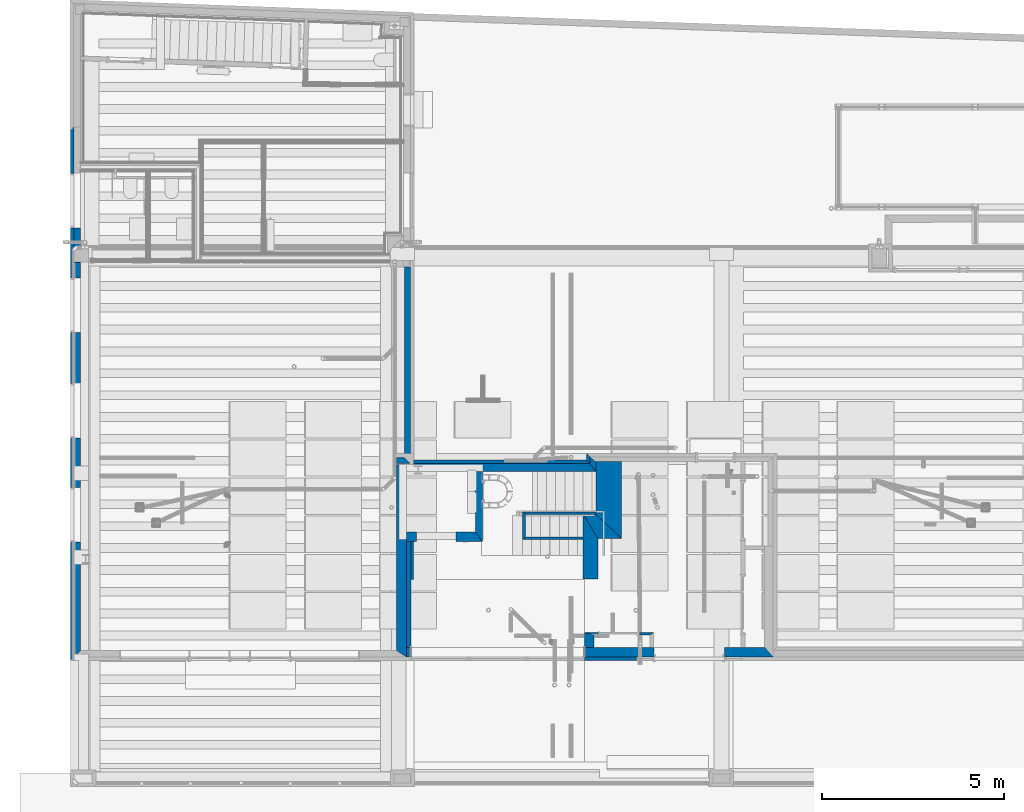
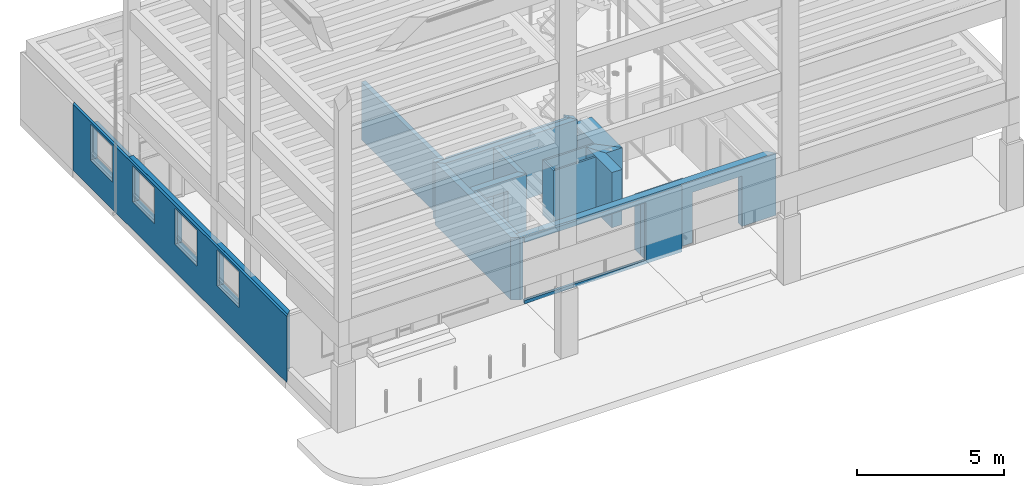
# One storey, part 6 of 108: 24 walls, 13 openings.
"""IFC2X3 building model written with IfcOpenShell, lengths in metres."""

from ifc_helpers import new_model, entity, si_unit, converted_unit, derived_unit, money_unit, direction, frame, frame_2d, origin_with_axes, place, context, subcontext, project, spatial, polyline, rectangle, outline, extrude, faceted_brep, material, layer, layer_set, layer_usage, type_object, element, save


model = new_model("IFC2X3")

# Units and contexts
model_context = context("Model", 3, precision=1e-05, world=origin_with_axes(), true_north=direction((0.0, 1.0)))
body_context = subcontext(model_context, "Body", "Model", "MODEL_VIEW", scale=1.0)
ifc_project = project(units=[si_unit("LENGTHUNIT", "METRE"), si_unit("AREAUNIT", "SQUARE_METRE"), si_unit("VOLUMEUNIT", "CUBIC_METRE"), si_unit("ABSORBEDDOSEUNIT", "GRAY"), si_unit("AMOUNTOFSUBSTANCEUNIT", "MOLE"), si_unit("DOSEEQUIVALENTUNIT", "SIEVERT"), si_unit("ELECTRICCAPACITANCEUNIT", "FARAD"), si_unit("ELECTRICCHARGEUNIT", "COULOMB"), si_unit("ELECTRICCONDUCTANCEUNIT", "SIEMENS"), si_unit("ELECTRICCURRENTUNIT", "AMPERE"), si_unit("ELECTRICRESISTANCEUNIT", "OHM"), si_unit("ELECTRICVOLTAGEUNIT", "VOLT"), si_unit("ENERGYUNIT", "JOULE"), si_unit("FORCEUNIT", "NEWTON"), si_unit("FREQUENCYUNIT", "HERTZ"), si_unit("ILLUMINANCEUNIT", "LUX"), si_unit("INDUCTANCEUNIT", "HENRY"), si_unit("LUMINOUSFLUXUNIT", "LUMEN"), si_unit("LUMINOUSINTENSITYUNIT", "CANDELA"), si_unit("MAGNETICFLUXDENSITYUNIT", "TESLA"), si_unit("MAGNETICFLUXUNIT", "WEBER"), si_unit("MASSUNIT", "GRAM"), converted_unit("PLANEANGLEUNIT", "degree", entity("IfcReal", 0.0174532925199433), si_unit("PLANEANGLEUNIT", "RADIAN"), dimensions=[0, 0, 0, 0, 0, 0, 0]), si_unit("POWERUNIT", "WATT"), si_unit("PRESSUREUNIT", "PASCAL"), si_unit("RADIOACTIVITYUNIT", "BECQUEREL"), si_unit("SOLIDANGLEUNIT", "STERADIAN"), si_unit("THERMODYNAMICTEMPERATUREUNIT", "KELVIN"), si_unit("TIMEUNIT", "SECOND"), derived_unit("ACCELERATIONUNIT", [(si_unit("LENGTHUNIT", "METRE"), 1), (si_unit("TIMEUNIT", "SECOND"), -2)]), derived_unit("ANGULARVELOCITYUNIT", [(converted_unit("PLANEANGLEUNIT", "degree", entity("IfcReal", 0.0174532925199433), si_unit("PLANEANGLEUNIT", "RADIAN"), dimensions=[0, 0, 0, 0, 0, 0, 0]), 1), (si_unit("TIMEUNIT", "SECOND"), -1)]), derived_unit("CURVATUREUNIT", [(converted_unit("PLANEANGLEUNIT", "degree", entity("IfcReal", 0.0174532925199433), si_unit("PLANEANGLEUNIT", "RADIAN"), dimensions=[0, 0, 0, 0, 0, 0, 0]), 1), (si_unit("LENGTHUNIT", "METRE"), -1)]), derived_unit("DYNAMICVISCOSITYUNIT", [(si_unit("PRESSUREUNIT", "PASCAL"), 1), (si_unit("TIMEUNIT", "SECOND"), 1)]), derived_unit("HEATFLUXDENSITYUNIT", [(si_unit("POWERUNIT", "WATT"), 1), (si_unit("LENGTHUNIT", "METRE"), -2)]), derived_unit("HEATINGVALUEUNIT", [(si_unit("ENERGYUNIT", "JOULE"), 1), (si_unit("MASSUNIT", "GRAM"), -1)]), derived_unit("INTEGERCOUNTRATEUNIT", [(si_unit("TIMEUNIT", "SECOND"), -1)]), derived_unit("IONCONCENTRATIONUNIT", [(si_unit("MASSUNIT", "GRAM"), 1), (si_unit("VOLUMEUNIT", "CUBIC_METRE"), -1)]), derived_unit("ISOTHERMALMOISTURECAPACITYUNIT", [(si_unit("VOLUMEUNIT", "CUBIC_METRE"), 1), (si_unit("MASSUNIT", "GRAM"), -1)]), derived_unit("KINEMATICVISCOSITYUNIT", [(si_unit("AREAUNIT", "SQUARE_METRE"), 1), (si_unit("TIMEUNIT", "SECOND"), -1)]), derived_unit("LINEARFORCEUNIT", [(si_unit("FORCEUNIT", "NEWTON"), 1), (si_unit("LENGTHUNIT", "METRE"), -1)]), derived_unit("LINEARMOMENTUNIT", [(si_unit("FORCEUNIT", "NEWTON"), 1), (si_unit("LENGTHUNIT", "METRE"), -1)]), derived_unit("LINEARSTIFFNESSUNIT", [(si_unit("FORCEUNIT", "NEWTON"), 1), (si_unit("LENGTHUNIT", "METRE"), -1)]), derived_unit("LINEARVELOCITYUNIT", [(si_unit("LENGTHUNIT", "METRE"), 1), (si_unit("TIMEUNIT", "SECOND"), -1)]), derived_unit("LUMINOUSINTENSITYDISTRIBUTIONUNIT", [(si_unit("LUMINOUSINTENSITYUNIT", "CANDELA"), 1), (si_unit("LUMINOUSFLUXUNIT", "LUMEN"), -1)]), derived_unit("MASSDENSITYUNIT", [(si_unit("MASSUNIT", "GRAM"), 1), (si_unit("VOLUMEUNIT", "CUBIC_METRE"), -1)]), derived_unit("MASSFLOWRATEUNIT", [(si_unit("MASSUNIT", "GRAM"), 1), (si_unit("TIMEUNIT", "SECOND"), -1)]), derived_unit("MASSPERLENGTHUNIT", [(si_unit("MASSUNIT", "GRAM"), 1), (si_unit("LENGTHUNIT", "METRE"), -1)]), derived_unit("MODULUSOFELASTICITYUNIT", [(si_unit("FORCEUNIT", "NEWTON"), 1), (si_unit("AREAUNIT", "SQUARE_METRE"), -1)]), derived_unit("MODULUSOFLINEARSUBGRADEREACTIONUNIT", [(si_unit("FORCEUNIT", "NEWTON"), 1), (si_unit("LENGTHUNIT", "METRE"), -2)]), derived_unit("MODULUSOFROTATIONALSUBGRADEREACTIONUNIT", [(si_unit("FORCEUNIT", "NEWTON"), 1), (si_unit("LENGTHUNIT", "METRE"), 1)]), derived_unit("MODULUSOFSUBGRADEREACTIONUNIT", [(si_unit("FORCEUNIT", "NEWTON"), 1), (si_unit("VOLUMEUNIT", "CUBIC_METRE"), -1)]), derived_unit("MOISTUREDIFFUSIVITYUNIT", [(si_unit("VOLUMEUNIT", "CUBIC_METRE"), 1), (si_unit("TIMEUNIT", "SECOND"), -1)]), derived_unit("MOLECULARWEIGHTUNIT", [(si_unit("MASSUNIT", "GRAM"), 1), (si_unit("AMOUNTOFSUBSTANCEUNIT", "MOLE"), -1)]), derived_unit("PLANARFORCEUNIT", [(si_unit("FORCEUNIT", "NEWTON"), 1), (si_unit("LENGTHUNIT", "METRE"), -2)]), derived_unit("ROTATIONALFREQUENCYUNIT", [(si_unit("TIMEUNIT", "SECOND"), -1)]), derived_unit("ROTATIONALMASSUNIT", [(si_unit("MASSUNIT", "GRAM"), 1), (si_unit("LENGTHUNIT", "METRE"), 2)]), derived_unit("ROTATIONALSTIFFNESSUNIT", [(si_unit("FORCEUNIT", "NEWTON"), 1), (si_unit("LENGTHUNIT", "METRE"), 1), (converted_unit("PLANEANGLEUNIT", "degree", entity("IfcReal", 0.0174532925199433), si_unit("PLANEANGLEUNIT", "RADIAN"), dimensions=[0, 0, 0, 0, 0, 0, 0]), -1)]), derived_unit("SECTIONAREAINTEGRALUNIT", [(si_unit("LENGTHUNIT", "METRE"), 5)]), derived_unit("SECTIONMODULUSUNIT", [(si_unit("LENGTHUNIT", "METRE"), 3)]), derived_unit("SHEARMODULUSUNIT", [(si_unit("FORCEUNIT", "NEWTON"), 1), (si_unit("AREAUNIT", "SQUARE_METRE"), -1)]), derived_unit("SOUNDPOWERUNIT", [(si_unit("ENERGYUNIT", "JOULE"), 1), (si_unit("TIMEUNIT", "SECOND"), -1)]), derived_unit("SPECIFICHEATCAPACITYUNIT", [(si_unit("FORCEUNIT", "NEWTON"), 1), (si_unit("MASSUNIT", "GRAM"), -1), (si_unit("THERMODYNAMICTEMPERATUREUNIT", "KELVIN"), -1)]), derived_unit("TEMPERATUREGRADIENTUNIT", [(si_unit("THERMODYNAMICTEMPERATUREUNIT", "KELVIN"), 1), (si_unit("LENGTHUNIT", "METRE"), -1)]), derived_unit("THERMALADMITTANCEUNIT", [(si_unit("POWERUNIT", "WATT"), 1), (si_unit("AREAUNIT", "SQUARE_METRE"), -1), (si_unit("THERMODYNAMICTEMPERATUREUNIT", "KELVIN"), -1)]), derived_unit("THERMALCONDUCTANCEUNIT", [(si_unit("POWERUNIT", "WATT"), 1), (si_unit("LENGTHUNIT", "METRE"), -1), (si_unit("THERMODYNAMICTEMPERATUREUNIT", "KELVIN"), -1)]), derived_unit("THERMALEXPANSIONCOEFFICIENTUNIT", [(si_unit("THERMODYNAMICTEMPERATUREUNIT", "KELVIN"), -1)]), derived_unit("THERMALRESISTANCEUNIT", [(si_unit("AREAUNIT", "SQUARE_METRE"), 1), (si_unit("POWERUNIT", "WATT"), -1)]), derived_unit("THERMALTRANSMITTANCEUNIT", [(si_unit("POWERUNIT", "WATT"), 1), (si_unit("AREAUNIT", "SQUARE_METRE"), -1), (si_unit("THERMODYNAMICTEMPERATUREUNIT", "KELVIN"), -1)]), derived_unit("TORQUEUNIT", [(si_unit("FORCEUNIT", "NEWTON"), 1), (si_unit("LENGTHUNIT", "METRE"), 1)]), derived_unit("VAPORPERMEABILITYUNIT", [(si_unit("MASSUNIT", "GRAM"), 1), (si_unit("TIMEUNIT", "SECOND"), -1)]), derived_unit("VOLUMETRICFLOWRATEUNIT", [(si_unit("VOLUMEUNIT", "CUBIC_METRE"), 1), (si_unit("TIMEUNIT", "SECOND"), -1)]), derived_unit("WARPINGCONSTANTUNIT", [(si_unit("LENGTHUNIT", "METRE"), 6)]), derived_unit("WARPINGMOMENTUNIT", [(si_unit("FORCEUNIT", "NEWTON"), 1), (si_unit("LENGTHUNIT", "METRE"), 2)]), money_unit("GBP")], contexts=[model_context])

# Site, building, storey
site_placement = place(None, origin_with_axes())
site = spatial("IfcSite", under=ifc_project, at=site_placement, Name="Site", CompositionType="ELEMENT")
building_placement = place(site_placement, origin_with_axes())
building = spatial("IfcBuilding", under=site, at=building_placement, Name="Building01", CompositionType="ELEMENT")
storey_placement = place(building_placement, origin_with_axes())
storey = spatial("IfcBuildingStorey", under=building, at=storey_placement, Name="GF", CompositionType="ELEMENT", Elevation=0.0)

# Wall
ifc_material_1 = material(Name="A_BSUK_WallsExternal_Brick")
ifc_layer_1 = layer(ifc_material_1, 0.1, ventilated=False)
ifc_layer_set_1 = layer_set([ifc_layer_1])
ifc_layer_usage_1 = layer_usage(ifc_layer_set_1, "AXIS2", "POSITIVE", 0.0)
wall_type_1 = type_object("IfcWallType", Name="A-Walls-ExternalBrick", PredefinedType="NOTDEFINED")
wall_1_placement = place(storey_placement, frame((14.172347, 8.971346, -0.16), z_axis=(0.0, 0.0, 1.0), x_axis=(-1.0, 3.756e-05, 0.0)))
element("IfcWallStandardCase", 1, at=wall_1_placement, inside=storey, type_object=wall_type_1, material=ifc_layer_usage_1, Name="A-Walls-ExternalBrick", ObjectType="A-Walls-ExternalBrick", context=body_context, shape_type="SweptSolid", body=[
    extrude(outline(polyline([(4.829309, 0.1), (-0.1, 0.1), (0.0, 0.0), (4.729309, 0.0), (4.829309, 0.1)])), origin_with_axes(), (0.0, 0.0, 1.0), 2.76),
])

# Wall, openings
wall_2_placement = place(storey_placement, frame((0.000677, 18.020229, -0.145), z_axis=(0.0, 0.0, 1.0), x_axis=(-3.756e-05, -1.0, 0.0)))
wall_2 = element("IfcWallStandardCase", 2, at=wall_2_placement, inside=storey, type_object=wall_type_1, material=ifc_layer_usage_1, Name="A-Walls-ExternalBrick", ObjectType="A-Walls-ExternalBrick", context=body_context, shape_type="SweptSolid", body=[
    extrude(outline(polyline([(14.460712, 0.1), (-0.100004, 0.1), (0.0, 0.0), (14.560712, 0.0), (14.460712, 0.1)])), origin_with_axes(), (0.0, 0.0, 1.0), 2.745),
])
opening_1_placement = place(wall_2_placement, frame((6.944757, 0.0, 1.143), z_axis=(0.0, 0.0, 1.0), x_axis=(1.0, 0.0, 0.0)))
element("IfcOpeningElement", 3, at=opening_1_placement, cuts=wall_2, Name="Opening", ObjectType="Opening", context=body_context, shape_type="Brep", body=[
    faceted_brep([(1.5, 0.1, 0.0), (0.0, 0.1, 0.0), (0.0, 0.1, 1.5), (1.5, 0.1, 1.5), (4e-06, 0.0, 0.0), (1.500004, 0.0, 0.0), (4e-06, 0.0, 1.5), (1.500004, 0.0, 1.5)], [[[0, 1, 2, 3]], [[4, 1, 0, 5]], [[6, 2, 1, 4]], [[5, 0, 3, 7]], [[4, 5, 7, 6]], [[7, 3, 2, 6]]]),
])
opening_2_placement = place(wall_2_placement, frame((9.809487, 0.0, 1.143), z_axis=(0.0, 0.0, 1.0), x_axis=(1.0, 0.0, 0.0)))
element("IfcOpeningElement", 4, at=opening_2_placement, cuts=wall_2, Name="Opening", ObjectType="Opening", context=body_context, shape_type="Brep", body=[
    faceted_brep([(1.5, 0.1, 0.0), (0.0, 0.1, 0.0), (0.0, 0.1, 1.5), (1.5, 0.1, 1.5), (4e-06, 0.0, 1.5), (4e-06, 0.0, 0.0), (1.500004, 0.0, 1.5), (1.500004, 0.0, 0.0)], [[[0, 1, 2, 3]], [[4, 2, 1, 5]], [[6, 3, 2, 4]], [[7, 0, 3, 6]], [[5, 7, 6, 4]], [[5, 1, 0, 7]]]),
])
opening_3_placement = place(wall_2_placement, frame((4.051232, 0.0, 1.143), z_axis=(0.0, 0.0, 1.0), x_axis=(1.0, 0.0, 0.0)))
element("IfcOpeningElement", 5, at=opening_3_placement, cuts=wall_2, Name="Opening", ObjectType="Opening", context=body_context, shape_type="Brep", body=[
    faceted_brep([(1.5, 0.1, 0.0), (0.0, 0.1, 0.0), (0.0, 0.1, 1.5), (1.5, 0.1, 1.5), (4e-06, 0.0, 0.0), (1.500004, 0.0, 0.0), (4e-06, 0.0, 1.5), (1.500004, 0.0, 1.5)], [[[0, 1, 2, 3]], [[4, 1, 0, 5]], [[6, 2, 1, 4]], [[5, 0, 3, 7]], [[4, 5, 7, 6]], [[7, 3, 2, 6]]]),
])
opening_4_placement = place(wall_2_placement, frame((1.177435, 0.0, 1.143), z_axis=(0.0, 0.0, 1.0), x_axis=(1.0, 0.0, 0.0)))
element("IfcOpeningElement", 6, at=opening_4_placement, cuts=wall_2, Name="Opening", ObjectType="Opening", context=body_context, shape_type="Brep", body=[
    faceted_brep([(1.5, 0.1, 0.0), (0.0, 0.1, 0.0), (0.0, 0.1, 1.5), (1.5, 0.1, 1.5), (4e-06, 0.0, 1.5), (4e-06, 0.0, 0.0), (1.500004, 0.0, 1.5), (1.500004, 0.0, 0.0)], [[[0, 1, 2, 3]], [[4, 2, 1, 5]], [[6, 3, 2, 4]], [[7, 0, 3, 6]], [[5, 7, 6, 4]], [[5, 1, 0, 7]]]),
])

# Wall, opening
wall_3_placement = place(storey_placement, frame((9.354092, 3.458823, -0.145), z_axis=(0.0, 0.0, 1.0), x_axis=(1.0, -3.756e-05, 0.0)))
wall_3 = element("IfcWallStandardCase", 7, at=wall_3_placement, inside=storey, type_object=wall_type_1, material=ifc_layer_usage_1, Name="A-Walls-ExternalBrick", ObjectType="A-Walls-ExternalBrick", context=body_context, shape_type="SweptSolid", body=[
    extrude(rectangle(XDim=6.191074, YDim=0.1, at=frame_2d((3.095537, 0.05), x_axis=(-1.0, 0.0))), origin_with_axes(), (0.0, 0.0, 1.0), 2.745),
])
opening_5_placement = place(wall_3_placement, frame((4e-06, 0.0, 0.145), z_axis=(0.0, 0.0, 1.0), x_axis=(1.0, 0.0, 0.0)))
element("IfcOpeningElement", 8, at=opening_5_placement, cuts=wall_3, Name="Opening", ObjectType="Opening", context=body_context, shape_type="Brep", body=[
    faceted_brep([(4.77, 0.1, 2.4), (4.77, 0.1, 0.0), (0.0, 0.1, 0.0), (0.0, 0.1, 2.4), (4e-06, 0.0, 0.0), (4.770004, 0.0, 0.0), (4.770004, 0.0, 2.4), (4e-06, 0.0, 2.4)], [[[0, 1, 2, 3]], [[4, 2, 1, 5]], [[6, 0, 3, 7]], [[7, 4, 5, 6]], [[7, 3, 2, 4]], [[5, 1, 0, 6]]]),
])

# Walls
ifc_material_2 = material(Name="A_BSUK_WallsExternal_Block")
ifc_layer_2 = layer(ifc_material_2, 0.1, ventilated=False)
ifc_layer_set_2 = layer_set([ifc_layer_2])
ifc_layer_usage_2 = layer_usage(ifc_layer_set_2, "AXIS2", "POSITIVE", 0.0)
wall_type_2 = type_object("IfcWallType", Name="A-Walls-ExternalBlock", PredefinedType="NOTDEFINED")
wall_4_placement = place(storey_placement, frame((14.172354, 9.15305, -0.16), z_axis=(0.0, 0.0, 1.0), x_axis=(-3.756e-05, -1.0, 0.0)))
element("IfcWallStandardCase", 9, at=wall_4_placement, inside=storey, type_object=wall_type_2, material=ifc_layer_usage_2, Name="A-Walls-ExternalBlock", ObjectType="A-Walls-ExternalBlock", context=body_context, shape_type="SweptSolid", body=[
    extrude(outline(polyline([(0.281704, 0.1), (0.1, 0.1), (0.0, 0.0), (0.181704, 0.0), (0.281704, 0.1)])), origin_with_axes(), (0.0, 0.0, 1.0), 2.76),
])
ifc_layer_3 = layer(ifc_material_2, 0.17, ventilated=False)
ifc_layer_set_3 = layer_set([ifc_layer_3])
ifc_layer_usage_3 = layer_usage(ifc_layer_set_3, "AXIS2", "POSITIVE", 0.0)
wall_5_placement = place(storey_placement, frame((9.173127, 14.271539, 0.198), z_axis=(0.0, 0.0, 1.0), x_axis=(0.0, -1.0, 0.0)))
element("IfcWallStandardCase", 10, at=wall_5_placement, inside=storey, type_object=wall_type_2, material=ifc_layer_usage_3, Name="A-Walls-ExternalBlock", ObjectType="A-Walls-ExternalBlock", context=body_context, shape_type="SweptSolid", body=[
    extrude(outline(polyline([(5.400398, 0.17), (0.0, 0.17), (0.0, 0.0), (5.236398, 0.0), (5.400398, 0.17)])), origin_with_axes(), (0.0, 0.0, 1.0), 2.402),
])
ifc_layer_4 = layer(ifc_material_2, 0.264900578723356, ventilated=False)
ifc_layer_set_4 = layer_set([ifc_layer_4])
ifc_layer_usage_4 = layer_usage(ifc_layer_set_4, "AXIS2", "POSITIVE", 0.0)
wall_6_placement = place(storey_placement, frame((9.229999, 3.559332, 0.0), z_axis=(0.0, 0.0, 1.0), x_axis=(0.0, 1.0, 0.0)))
element("IfcWallStandardCase", 11, at=wall_6_placement, inside=storey, type_object=wall_type_2, material=ifc_layer_usage_4, Name="A-Walls-ExternalBlock", ObjectType="A-Walls-ExternalBlock", context=body_context, shape_type="SweptSolid", body=[
    extrude(outline(polyline([(5.312078, 0.264901), (0.174, 0.264901), (0.0, 0.0), (5.088078, 0.0), (5.312078, 0.264901)])), origin_with_axes(), (0.0, 0.0, 1.0), 2.6),
])
ifc_layer_5 = layer(ifc_material_2, 0.164, ventilated=False)
ifc_layer_set_5 = layer_set([ifc_layer_5])
ifc_layer_usage_5 = layer_usage(ifc_layer_set_5, "AXIS2", "POSITIVE", 0.0)
wall_7_placement = place(storey_placement, frame((9.173127, 9.035141, 0.198), z_axis=(0.0, 0.0, 1.0), x_axis=(-1.0, 0.0, 0.0)))
element("IfcWallStandardCase", 12, at=wall_7_placement, inside=storey, type_object=wall_type_2, material=ifc_layer_usage_5, Name="A-Walls-ExternalBlock", ObjectType="A-Walls-ExternalBlock", context=body_context, shape_type="SweptSolid", body=[
    extrude(outline(polyline([(-0.17, 0.164), (0.0, 0.0), (0.207627, 0.0), (0.207627, 0.164), (-0.17, 0.164)])), origin_with_axes(), (0.0, 0.0, 1.0), 2.402),
])

# Wall, openings
ifc_layer_6 = layer(ifc_material_2, 0.18, ventilated=False)
ifc_layer_set_6 = layer_set([ifc_layer_6])
ifc_layer_usage_6 = layer_usage(ifc_layer_set_6, "AXIS2", "POSITIVE", 0.0)
wall_8_placement = place(storey_placement, frame((0.280357, 3.733332, 0.198), z_axis=(0.0, 0.0, 1.0), x_axis=(3.756e-05, 1.0, 0.0)))
wall_8 = element("IfcWallStandardCase", 13, at=wall_8_placement, inside=storey, type_object=wall_type_2, material=ifc_layer_usage_6, Name="A-Walls-ExternalBlock", ObjectType="A-Walls-ExternalBlock", context=body_context, shape_type="SweptSolid", body=[
    extrude(outline(polyline([(10.65662, 0.18), (-0.174007, 0.18), (0.0, 0.0), (10.65662, 0.0), (10.65662, 0.18)])), origin_with_axes(), (0.0, 0.0, 1.0), 2.402),
])
opening_6_placement = place(wall_8_placement, frame((5.842129, 0.0, 0.8), z_axis=(0.0, 0.0, 1.0), x_axis=(1.0, 0.0, 0.0)))
element("IfcOpeningElement", 14, at=opening_6_placement, cuts=wall_8, Name="Opening", ObjectType="Opening", context=body_context, shape_type="Brep", body=[
    faceted_brep([(1.5, 0.18, 0.0), (0.0, 0.18, 0.0), (0.0, 0.18, 1.5), (1.5, 0.18, 1.5), (1.500007, 0.0, 0.0), (7e-06, 0.0, 0.0), (1.500007, 0.0, 1.5), (7e-06, 0.0, 1.5)], [[[0, 1, 2, 3]], [[0, 4, 5, 1]], [[3, 6, 4, 0]], [[1, 5, 7, 2]], [[5, 4, 6, 7]], [[2, 7, 6, 3]]]),
])
opening_7_placement = place(wall_8_placement, frame((8.735654, 0.0, 0.8), z_axis=(0.0, 0.0, 1.0), x_axis=(1.0, 0.0, 0.0)))
element("IfcOpeningElement", 15, at=opening_7_placement, cuts=wall_8, Name="Opening", ObjectType="Opening", context=body_context, shape_type="Brep", body=[
    faceted_brep([(1.5, 0.18, 0.0), (0.0, 0.18, 0.0), (0.0, 0.18, 1.5), (1.5, 0.18, 1.5), (1.500007, 0.0, 0.0), (7e-06, 0.0, 0.0), (1.500007, 0.0, 1.5), (7e-06, 0.0, 1.5)], [[[0, 1, 2, 3]], [[0, 4, 5, 1]], [[3, 6, 4, 0]], [[1, 5, 7, 2]], [[5, 4, 6, 7]], [[2, 7, 6, 3]]]),
])
opening_8_placement = place(wall_8_placement, frame((2.977399, 0.0, 0.8), z_axis=(0.0, 0.0, 1.0), x_axis=(1.0, 0.0, 0.0)))
element("IfcOpeningElement", 16, at=opening_8_placement, cuts=wall_8, Name="Opening", ObjectType="Opening", context=body_context, shape_type="Brep", body=[
    faceted_brep([(1.5, 0.18, 1.5), (1.5, 0.18, 0.0), (0.0, 0.18, 0.0), (0.0, 0.18, 1.5), (1.500007, 0.0, 0.0), (7e-06, 0.0, 0.0), (1.500007, 0.0, 1.5), (7e-06, 0.0, 1.5)], [[[0, 1, 2, 3]], [[1, 4, 5, 2]], [[6, 4, 1, 0]], [[2, 5, 7, 3]], [[5, 4, 6, 7]], [[3, 7, 6, 0]]]),
])

# Walls
ifc_layer_7 = layer(ifc_material_2, 0.159, ventilated=False)
ifc_layer_set_7 = layer_set([ifc_layer_7])
ifc_layer_usage_7 = layer_usage(ifc_layer_set_7, "AXIS2", "POSITIVE", 0.0)
wall_9_placement = place(storey_placement, frame((14.27235, 9.053145, 0.0), z_axis=(0.0, 0.0, 1.0), x_axis=(0.0, -1.0, 0.0)))
element("IfcWallStandardCase", 17, at=wall_9_placement, inside=storey, type_object=wall_type_2, material=ifc_layer_usage_7, Name="A-Walls-ExternalBlock", ObjectType="A-Walls-ExternalBlock", context=body_context, shape_type="SweptSolid", body=[
    extrude(outline(polyline([(0.405736, 0.159), (0.131, 0.159), (0.0, 0.0), (0.181736, 0.0), (0.405736, 0.159)])), origin_with_axes(), (0.0, 0.0, 1.0), 2.6),
])
ifc_layer_8 = layer(ifc_material_2, 0.224, ventilated=False)
ifc_layer_set_8 = layer_set([ifc_layer_8])
ifc_layer_usage_8 = layer_usage(ifc_layer_set_8, "AXIS2", "POSITIVE", 0.0)
wall_10_placement = place(storey_placement, frame((9.229999, 8.64741, 0.0), z_axis=(0.0, 0.0, 1.0), x_axis=(1.0, 0.0, 0.0)))
element("IfcWallStandardCase", 18, at=wall_10_placement, inside=storey, type_object=wall_type_2, material=ifc_layer_usage_8, Name="A-Walls-ExternalBlock", ObjectType="A-Walls-ExternalBlock", context=body_context, shape_type="SweptSolid", body=[
    extrude(outline(polyline([(5.042351, 0.224), (-0.264901, 0.224), (0.0, 0.0), (5.201351, 0.0), (5.042351, 0.224)])), origin_with_axes(), (0.0, 0.0, 1.0), 2.6),
])
ifc_layer_9 = layer(ifc_material_2, 0.065, ventilated=False)
ifc_layer_set_9 = layer_set([ifc_layer_9])
ifc_layer_usage_9 = layer_usage(ifc_layer_set_9, "AXIS2", "POSITIVE", 0.0)
wall_11_placement = place(storey_placement, frame((9.354099, 6.725761, 0.0), z_axis=(0.0, 0.0, 1.0), x_axis=(0.0, -1.0, 0.0)))
element("IfcWallStandardCase", 19, at=wall_11_placement, inside=storey, type_object=wall_type_2, material=ifc_layer_usage_9, Name="A-Walls-ExternalBlock", ObjectType="A-Walls-ExternalBlock", context=body_context, shape_type="SweptSolid", body=[
    extrude(rectangle(XDim=0.065, YDim=1.032712, at=frame_2d((0.516356, 0.0325), x_axis=(0.0, -1.0))), origin_with_axes(), (0.0, 0.0, 1.0), 2.6),
])

# Wall, openings
ifc_layer_10 = layer(ifc_material_2, 0.265, ventilated=False)
ifc_layer_set_10 = layer_set([ifc_layer_10])
ifc_layer_usage_10 = layer_usage(ifc_layer_set_10, "AXIS2", "POSITIVE", 0.0)
wall_12_placement = place(storey_placement, frame((19.069772, 3.823962, 0.0), z_axis=(0.0, 0.0, 1.0), x_axis=(-1.0, 0.0, 0.0)))
wall_12 = element("IfcWallStandardCase", 20, at=wall_12_placement, inside=storey, type_object=wall_type_2, material=ifc_layer_usage_10, Name="A-Walls-ExternalBlock", ObjectType="A-Walls-ExternalBlock", context=body_context, shape_type="SweptSolid", body=[
    extrude(outline(polyline([(9.839772, 0.265), (-0.233, 0.265), (0.0, 0.0), (9.839772, 0.0), (9.839772, 0.265)])), origin_with_axes(), (0.0, 0.0, 1.0), 2.6),
])
opening_9_placement = place(wall_12_placement, frame((1.109549, 0.0, 0.0), z_axis=(0.0, 0.0, 1.0), x_axis=(1.0, 0.0, 0.0)))
element("IfcOpeningElement", 21, at=opening_9_placement, cuts=wall_12, Name="Opening", ObjectType="Opening", context=body_context, shape_type="SweptSolid", body=[
    extrude(rectangle(XDim=2.1, YDim=1.934, at=frame_2d((-0.967, 1.05), x_axis=(0.0, -1.0))), frame((0.0, 0.0, 0.0), z_axis=(0.0, 1.0, 0.0), x_axis=(-1.0, 0.0, 0.0)), (0.0, 0.0, 1.0), 0.265),
])
opening_10_placement = place(wall_12_placement, frame((4.945672, 0.0, 0.0), z_axis=(0.0, 0.0, 1.0), x_axis=(1.0, 0.0, 0.0)))
element("IfcOpeningElement", 22, at=opening_10_placement, cuts=wall_12, Name="Opening", ObjectType="Opening", context=body_context, shape_type="SweptSolid", body=[
    extrude(rectangle(XDim=2.4, YDim=4.77, at=frame_2d((-2.385, 1.2), x_axis=(0.0, 1.0))), frame((0.0, 0.0, 0.0), z_axis=(0.0, 1.0, 0.0), x_axis=(-1.0, 0.0, 0.0)), (0.0, 0.0, 1.0), 0.265),
])

# Wall
ifc_layer_11 = layer(ifc_material_2, 0.1241, ventilated=False)
ifc_layer_set_11 = layer_set([ifc_layer_11])
ifc_layer_usage_11 = layer_usage(ifc_layer_set_11, "AXIS2", "POSITIVE", 0.0)
wall_13_placement = place(storey_placement, frame((9.229999, 6.725761, 0.0), z_axis=(0.0, 0.0, 1.0), x_axis=(0.0, -1.0, 0.0)))
element("IfcWallStandardCase", 23, at=wall_13_placement, inside=storey, type_object=wall_type_2, material=ifc_layer_usage_11, Name="A-Walls-ExternalBlock", ObjectType="A-Walls-ExternalBlock", context=body_context, shape_type="SweptSolid", body=[
    extrude(rectangle(XDim=2.901799, YDim=0.1241, at=frame_2d((1.4509, 0.06205), x_axis=(-1.0, 0.0))), origin_with_axes(), (0.0, 0.0, 1.0), 2.6),
])

# Wall, opening
ifc_material_3 = material(Name="A_BSUK_WallsInternal_Block")
ifc_layer_12 = layer(ifc_material_3, 0.18, ventilated=False)
ifc_layer_set_12 = layer_set([ifc_layer_12])
ifc_layer_usage_12 = layer_usage(ifc_layer_set_12, "AXIS2", "POSITIVE", 0.0)
wall_type_3 = type_object("IfcWallType", Name="A-Walls-InternalBlock", PredefinedType="NOTDEFINED")
wall_14_placement = place(storey_placement, frame((0.280757, 14.389953, 0.198), z_axis=(0.0, 0.0, 1.0), x_axis=(3.756e-05, 1.0, 0.0)))
wall_14 = element("IfcWallStandardCase", 24, at=wall_14_placement, inside=storey, type_object=wall_type_3, material=ifc_layer_usage_12, Name="A-Walls-InternalBlock", ObjectType="A-Walls-InternalBlock", context=body_context, shape_type="SweptSolid", body=[
    extrude(rectangle(XDim=2.457492, YDim=0.18, at=frame_2d((1.228746, 0.09), x_axis=(-1.0, 0.0))), origin_with_axes(), (0.0, 0.0, 1.0), 2.337),
])
opening_11_placement = place(wall_14_placement, frame((0.95283, 0.0, 0.8), z_axis=(0.0, 0.0, 1.0), x_axis=(1.0, 0.0, 0.0)))
element("IfcOpeningElement", 25, at=opening_11_placement, cuts=wall_14, Name="Opening", ObjectType="Opening", context=body_context, shape_type="Brep", body=[
    faceted_brep([(1.5, 0.18, 1.5), (1.5, 0.18, 0.0), (0.0, 0.18, 0.0), (0.0, 0.18, 1.5), (1.500007, 0.0, 0.0), (7e-06, 0.0, 0.0), (1.500007, 0.0, 1.5), (7e-06, 0.0, 1.5)], [[[0, 1, 2, 3]], [[1, 4, 5, 2]], [[6, 4, 1, 0]], [[2, 5, 7, 3]], [[5, 4, 6, 7]], [[3, 7, 6, 0]]]),
])

# Wall
ifc_layer_13 = layer(ifc_material_3, 0.193800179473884, ventilated=False)
ifc_layer_set_13 = layer_set([ifc_layer_13])
ifc_layer_usage_13 = layer_usage(ifc_layer_set_13, "AXIS2", "POSITIVE", 0.0)
wall_15_placement = place(storey_placement, frame((11.13, 8.64741, 0.0), z_axis=(0.0, 0.0, 1.0), x_axis=(0.0, -1.0, 0.0)))
element("IfcWallStandardCase", 26, at=wall_15_placement, inside=storey, type_object=wall_type_3, material=ifc_layer_usage_13, Name="A-Walls-InternalBlock", ObjectType="A-Walls-InternalBlock", context=body_context, shape_type="SweptSolid", body=[
    extrude(outline(polyline([(1.921649, 0.1938), (0.0, 0.1938), (0.0, 0.0), (1.657649, 0.0), (1.921649, 0.1938)])), origin_with_axes(), (0.0, 0.0, 1.0), 2.6),
])

# Wall, opening
ifc_layer_14 = layer(ifc_material_3, 0.264, ventilated=False)
ifc_layer_set_14 = layer_set([ifc_layer_14])
ifc_layer_usage_14 = layer_usage(ifc_layer_set_14, "AXIS2", "POSITIVE", 0.0)
wall_16_placement = place(storey_placement, frame((11.13, 6.989761, 0.0), z_axis=(0.0, 0.0, 1.0), x_axis=(-1.0, 0.0, 0.0)))
wall_16 = element("IfcWallStandardCase", 27, at=wall_16_placement, inside=storey, type_object=wall_type_3, material=ifc_layer_usage_14, Name="A-Walls-InternalBlock", ObjectType="A-Walls-InternalBlock", context=body_context, shape_type="SweptSolid", body=[
    extrude(outline(polyline([(1.900001, 0.264), (-0.1938, 0.264), (0.0, 0.0), (1.900001, 0.0), (1.900001, 0.264)])), origin_with_axes(), (0.0, 0.0, 1.0), 2.6),
])
opening_12_placement = place(wall_16_placement, frame((0.538302, 0.0, 0.0), z_axis=(0.0, 0.0, 1.0), x_axis=(1.0, 0.0, 0.0)))
element("IfcOpeningElement", 28, at=opening_12_placement, cuts=wall_16, Name="Opening", ObjectType="Opening", context=body_context, shape_type="SweptSolid", body=[
    extrude(rectangle(XDim=2.14, YDim=1.08, at=frame_2d((-0.54, 1.07), x_axis=(0.0, -1.0))), frame((0.0, 0.0, 0.0), z_axis=(0.0, 1.0, 0.0), x_axis=(-1.0, 0.0, 0.0)), (0.0, 0.0, 1.0), 0.264),
])

# Walls
ifc_material_4 = material(Name="A_BSUK_WallsInternal")
ifc_layer_15 = layer(ifc_material_4, 0.405, ventilated=False)
ifc_layer_set_15 = layer_set([ifc_layer_15])
ifc_layer_usage_15 = layer_usage(ifc_layer_set_15, "AXIS2", "POSITIVE", 0.0)
wall_type_4 = type_object("IfcWallType", Name="A-Walls-Internal", PredefinedType="NOTDEFINED")
wall_17_placement = place(storey_placement, frame((14.491151, 5.701748, 0.0), z_axis=(0.0, 0.0, 1.0), x_axis=(0.0, 1.0, 0.0)))
element("IfcWallStandardCase", 29, at=wall_17_placement, inside=storey, type_object=wall_type_4, material=ifc_layer_usage_15, Name="A-Walls-Internal", ObjectType="A-Walls-Internal", context=body_context, shape_type="SweptSolid", body=[
    extrude(outline(polyline([(1.772868, 0.405), (0.0, 0.405), (0.0, 0.0), (1.112868, 0.0), (1.772868, 0.405)])), origin_with_axes(), (0.0, 0.0, 1.0), 2.3),
])
ifc_layer_16 = layer(ifc_material_4, 0.66, ventilated=False)
ifc_layer_set_16 = layer_set([ifc_layer_16])
ifc_layer_usage_16 = layer_usage(ifc_layer_set_16, "AXIS2", "POSITIVE", 0.0)
wall_18_placement = place(storey_placement, frame((14.491151, 6.814616, 0.0), z_axis=(0.0, 0.0, 1.0), x_axis=(1.0, 0.0, 0.0)))
element("IfcWallStandardCase", 30, at=wall_18_placement, inside=storey, type_object=wall_type_4, material=ifc_layer_usage_16, Name="A-Walls-Internal", ObjectType="A-Walls-Internal", context=body_context, shape_type="SweptSolid", body=[
    extrude(outline(polyline([(-0.059646, 0.66), (-0.405, 0.66), (0.0, 0.0), (0.651354, 0.0), (-0.059646, 0.66)])), origin_with_axes(), (0.0, 0.0, 1.0), 2.3),
])
ifc_layer_17 = layer(ifc_material_4, 0.073, ventilated=False)
ifc_layer_set_17 = layer_set([ifc_layer_17])
ifc_layer_usage_17 = layer_usage(ifc_layer_set_17, "AXIS2", "POSITIVE", 0.0)
wall_19_placement = place(storey_placement, frame((12.4238, 7.54741, 0.0), z_axis=(0.0, 0.0, 1.0), x_axis=(0.0, -1.0, 0.0)))
element("IfcWallStandardCase", 31, at=wall_19_placement, inside=storey, type_object=wall_type_4, material=ifc_layer_usage_17, Name="A-Walls-Internal", ObjectType="A-Walls-Internal", context=body_context, shape_type="SweptSolid", body=[
    extrude(outline(polyline([(0.687877, 0.073), (0.073, 0.073), (0.0, 0.0), (0.760877, 0.0), (0.687877, 0.073)])), origin_with_axes(), (0.0, 0.0, 1.0), 2.3),
])
wall_20_placement = place(storey_placement, frame((12.4238, 6.786533, 0.0), z_axis=(0.0, 0.0, 1.0), x_axis=(1.0, 0.0, 0.0)))
element("IfcWallStandardCase", 32, at=wall_20_placement, inside=storey, type_object=wall_type_4, material=ifc_layer_usage_17, Name="A-Walls-Internal", ObjectType="A-Walls-Internal", context=body_context, shape_type="SweptSolid", body=[
    extrude(outline(polyline([(0.073, 0.073), (0.0, 0.0), (1.662466, 0.0), (1.662466, 0.073), (0.073, 0.073)])), origin_with_axes(), (0.0, 0.0, 1.0), 2.3),
])
ifc_layer_18 = layer(ifc_material_4, 0.263, ventilated=False)
ifc_layer_set_18 = layer_set([ifc_layer_18])
ifc_layer_usage_18 = layer_usage(ifc_layer_set_18, "AXIS2", "POSITIVE", 0.0)
wall_21_placement = place(storey_placement, frame((14.38433, 3.823962, 0.0), z_axis=(0.0, 0.0, 1.0), x_axis=(0.0, 1.0, 0.0)))
element("IfcWallStandardCase", 33, at=wall_21_placement, inside=storey, type_object=wall_type_4, material=ifc_layer_usage_18, Name="A-Walls-Internal", ObjectType="A-Walls-Internal", context=body_context, shape_type="SweptSolid", body=[
    extrude(outline(polyline([(0.403508, 0.263), (0.0, 0.263), (0.0, 0.0), (0.333508, 0.0), (0.403508, 0.263)])), origin_with_axes(), (0.0, 0.0, 1.0), 2.3),
])

# Wall, opening
ifc_layer_19 = layer(ifc_material_4, 0.07, ventilated=False)
ifc_layer_set_19 = layer_set([ifc_layer_19])
ifc_layer_usage_19 = layer_usage(ifc_layer_set_19, "AXIS2", "POSITIVE", 0.0)
wall_22_placement = place(storey_placement, frame((16.022644, 4.22747, 0.0), z_axis=(0.0, 0.0, 1.0), x_axis=(-1.0, 0.0, 0.0)))
wall_22 = element("IfcWallStandardCase", 34, at=wall_22_placement, inside=storey, type_object=wall_type_4, material=ifc_layer_usage_19, Name="A-Walls-Internal", ObjectType="A-Walls-Internal", context=body_context, shape_type="SweptSolid", body=[
    extrude(outline(polyline([(1.638314, 0.07), (0.107, 0.07), (0.0, 0.0), (1.901314, 0.0), (1.638314, 0.07)])), origin_with_axes(), (0.0, 0.0, 1.0), 2.3),
])
opening_13_placement = place(wall_22_placement, frame((0.395883, 0.0, 0.0), z_axis=(0.0, 0.0, 1.0), x_axis=(1.0, 0.0, 0.0)))
element("IfcOpeningElement", 35, at=opening_13_placement, cuts=wall_22, Name="Opening", ObjectType="Opening", context=body_context, shape_type="Brep", body=[
    faceted_brep([(0.0, 0.0, 2.1), (0.0, 0.0, 0.0), (1.124, 0.0, 0.0), (1.124, 0.0, 2.1), (3e-06, 0.07, 0.0), (3e-06, 0.07, 2.1), (1.124003, 0.07, 2.1), (1.124003, 0.07, 0.0)], [[[0, 1, 2, 3]], [[4, 5, 6, 7]], [[1, 4, 7, 2]], [[5, 0, 3, 6]], [[4, 1, 0, 5]], [[6, 3, 2, 7]]]),
])

# Walls
ifc_layer_20 = layer(ifc_material_4, 0.711, ventilated=False)
ifc_layer_set_20 = layer_set([ifc_layer_20])
ifc_layer_usage_20 = layer_usage(ifc_layer_set_20, "AXIS2", "POSITIVE", 0.0)
wall_23_placement = place(storey_placement, frame((15.142505, 6.814616, 0.0), z_axis=(0.0, 0.0, 1.0), x_axis=(0.0, 1.0, 0.0)))
element("IfcWallStandardCase", 36, at=wall_23_placement, inside=storey, type_object=wall_type_4, material=ifc_layer_usage_20, Name="A-Walls-Internal", ObjectType="A-Walls-Internal", context=body_context, shape_type="SweptSolid", body=[
    extrude(outline(polyline([(2.107529, 0.711), (0.66, 0.711), (0.0, 0.0), (2.107529, 0.0), (2.107529, 0.711)])), origin_with_axes(), (0.0, 0.0, 1.0), 2.3),
])
wall_24_placement = place(storey_placement, frame((12.4238, 7.54741, 0.0), z_axis=(0.0, 0.0, 1.0), x_axis=(1.0, 0.0, 0.0)))
element("IfcWallStandardCase", 37, at=wall_24_placement, inside=storey, type_object=wall_type_4, material=ifc_layer_usage_17, Name="A-Walls-Internal", ObjectType="A-Walls-Internal", context=body_context, shape_type="SweptSolid", body=[
    extrude(outline(polyline([(2.007705, 0.0), (0.0, 0.0), (0.073, -0.073), (2.007705, -0.073), (2.007705, 0.0)])), origin_with_axes(), (0.0, 0.0, 1.0), 2.3),
])

save(model, "model.ifc")
